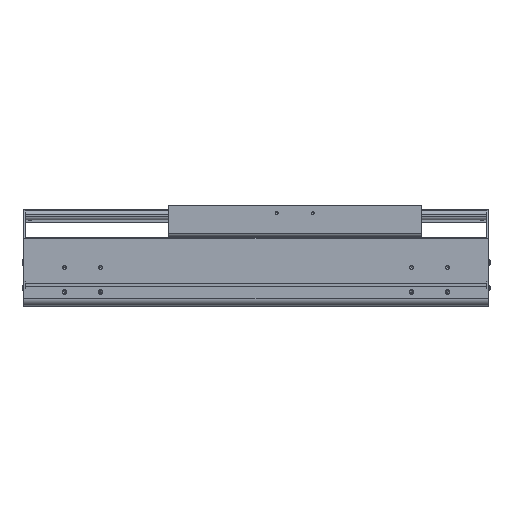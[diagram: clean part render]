
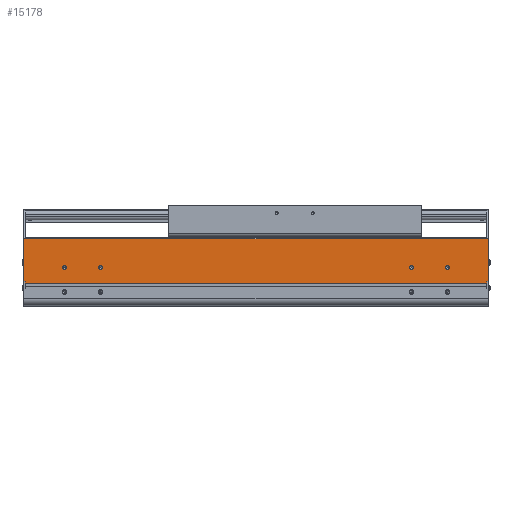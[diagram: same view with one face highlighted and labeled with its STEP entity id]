
A CAD part, top view. The second image highlights one B-rep face of the part: STEP entity #15178.
In plain terms, the highlighted planar face has unit normal (0, 0, 1).
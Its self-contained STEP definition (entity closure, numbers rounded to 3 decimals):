
#1622=DIRECTION('',(0.,-1.,0.));
#1623=VECTOR('',#1622,2.55);
#1624=CARTESIAN_POINT('',(0.,34.65,107.));
#1625=LINE('',#1624,#1623);
#2105=DIRECTION('',(1.,0.,0.));
#2106=VECTOR('',#2105,2.);
#2107=CARTESIAN_POINT('',(-641.,34.65,107.));
#2108=LINE('',#2107,#2106);
#2109=CARTESIAN_POINT('',(-54.5,54.,107.));
#2110=DIRECTION('',(0.,0.,-1.));
#2111=DIRECTION('',(1.,0.,0.));
#2112=AXIS2_PLACEMENT_3D('',#2109,#2110,#2111);
#2114=CARTESIAN_POINT('',(-54.5,54.,107.));
#2115=DIRECTION('',(0.,0.,-1.));
#2116=DIRECTION('',(-1.,0.,0.));
#2117=AXIS2_PLACEMENT_3D('',#2114,#2115,#2116);
#2119=CARTESIAN_POINT('',(-104.5,54.,107.));
#2120=DIRECTION('',(0.,0.,-1.));
#2121=DIRECTION('',(1.,0.,0.));
#2122=AXIS2_PLACEMENT_3D('',#2119,#2120,#2121);
#2124=CARTESIAN_POINT('',(-104.5,54.,107.));
#2125=DIRECTION('',(0.,0.,-1.));
#2126=DIRECTION('',(-1.,0.,0.));
#2127=AXIS2_PLACEMENT_3D('',#2124,#2125,#2126);
#2129=CARTESIAN_POINT('',(-584.5,54.,107.));
#2130=DIRECTION('',(0.,0.,-1.));
#2131=DIRECTION('',(1.,0.,0.));
#2132=AXIS2_PLACEMENT_3D('',#2129,#2130,#2131);
#2134=CARTESIAN_POINT('',(-584.5,54.,107.));
#2135=DIRECTION('',(0.,0.,-1.));
#2136=DIRECTION('',(-1.,0.,0.));
#2137=AXIS2_PLACEMENT_3D('',#2134,#2135,#2136);
#2139=CARTESIAN_POINT('',(-534.5,54.,107.));
#2140=DIRECTION('',(0.,0.,-1.));
#2141=DIRECTION('',(1.,0.,0.));
#2142=AXIS2_PLACEMENT_3D('',#2139,#2140,#2141);
#2144=CARTESIAN_POINT('',(-534.5,54.,107.));
#2145=DIRECTION('',(0.,0.,-1.));
#2146=DIRECTION('',(-1.,0.,0.));
#2147=AXIS2_PLACEMENT_3D('',#2144,#2145,#2146);
#2149=DIRECTION('',(0.,-1.,0.));
#2150=VECTOR('',#2149,2.55);
#2151=CARTESIAN_POINT('',(-639.,34.65,107.));
#2152=LINE('',#2151,#2150);
#2153=DIRECTION('',(0.,-1.,0.));
#2154=VECTOR('',#2153,58.85);
#2155=CARTESIAN_POINT('',(-641.,93.5,107.));
#2156=LINE('',#2155,#2154);
#2157=DIRECTION('',(0.,1.,0.));
#2158=VECTOR('',#2157,58.85);
#2159=CARTESIAN_POINT('',(2.,34.65,107.));
#2160=LINE('',#2159,#2158);
#2161=DIRECTION('',(1.,0.,0.));
#2162=VECTOR('',#2161,639.);
#2163=CARTESIAN_POINT('',(-639.,32.1,107.));
#2164=LINE('',#2163,#2162);
#2269=DIRECTION('',(-1.,0.,0.));
#2270=VECTOR('',#2269,643.);
#2271=CARTESIAN_POINT('',(2.,93.5,107.));
#2272=LINE('',#2271,#2270);
#8619=DIRECTION('',(1.,0.,0.));
#8620=VECTOR('',#8619,2.);
#8621=CARTESIAN_POINT('',(0.,34.65,107.));
#8622=LINE('',#8621,#8620);
#9869=CARTESIAN_POINT('',(-641.,34.65,107.));
#9870=VERTEX_POINT('',#9869);
#9871=CARTESIAN_POINT('',(-641.,93.5,107.));
#9872=VERTEX_POINT('',#9871);
#10101=CARTESIAN_POINT('',(-639.,32.1,107.));
#10102=VERTEX_POINT('',#10101);
#10443=CARTESIAN_POINT('',(0.,32.1,107.));
#10444=VERTEX_POINT('',#10443);
#10445=CARTESIAN_POINT('',(-52.,54.,107.));
#10446=CARTESIAN_POINT('',(-57.,54.,107.));
#10447=VERTEX_POINT('',#10445);
#10448=VERTEX_POINT('',#10446);
#10449=CARTESIAN_POINT('',(-102.,54.,107.));
#10450=CARTESIAN_POINT('',(-107.,54.,107.));
#10451=VERTEX_POINT('',#10449);
#10452=VERTEX_POINT('',#10450);
#10453=CARTESIAN_POINT('',(-582.,54.,107.));
#10454=CARTESIAN_POINT('',(-587.,54.,107.));
#10455=VERTEX_POINT('',#10453);
#10456=VERTEX_POINT('',#10454);
#10457=CARTESIAN_POINT('',(-532.,54.,107.));
#10458=CARTESIAN_POINT('',(-537.,54.,107.));
#10459=VERTEX_POINT('',#10457);
#10460=VERTEX_POINT('',#10458);
#11368=CARTESIAN_POINT('',(2.,34.65,107.));
#11369=VERTEX_POINT('',#11368);
#11370=CARTESIAN_POINT('',(2.,93.5,107.));
#11371=VERTEX_POINT('',#11370);
#11714=CARTESIAN_POINT('',(0.,34.65,107.));
#11715=VERTEX_POINT('',#11714);
#11902=CARTESIAN_POINT('',(-639.,34.65,107.));
#11903=VERTEX_POINT('',#11902);
#15136=CARTESIAN_POINT('',(-319.5,62.8,107.));
#15137=DIRECTION('',(0.,0.,1.));
#15138=DIRECTION('',(0.,-1.,0.));
#15139=AXIS2_PLACEMENT_3D('',#15136,#15137,#15138);
#15140=PLANE('',#15139);
#15141=ORIENTED_EDGE('',*,*,#13389,.F.);
#15142=ORIENTED_EDGE('',*,*,#15131,.F.);
#15143=ORIENTED_EDGE('',*,*,#14018,.F.);
#15145=ORIENTED_EDGE('',*,*,#15144,.F.);
#15146=ORIENTED_EDGE('',*,*,#13127,.F.);
#15148=ORIENTED_EDGE('',*,*,#15147,.F.);
#15149=ORIENTED_EDGE('',*,*,#14738,.T.);
#15151=ORIENTED_EDGE('',*,*,#15150,.F.);
#15152=EDGE_LOOP('',(#15141,#15142,#15143,#15145,#15146,#15148,#15149,#15151));
#15153=FACE_OUTER_BOUND('',#15152,.F.);
#15155=ORIENTED_EDGE('',*,*,#15154,.F.);
#15157=ORIENTED_EDGE('',*,*,#15156,.F.);
#15158=EDGE_LOOP('',(#15155,#15157));
#15159=FACE_BOUND('',#15158,.F.);
#15161=ORIENTED_EDGE('',*,*,#15160,.F.);
#15163=ORIENTED_EDGE('',*,*,#15162,.F.);
#15164=EDGE_LOOP('',(#15161,#15163));
#15165=FACE_BOUND('',#15164,.F.);
#15167=ORIENTED_EDGE('',*,*,#15166,.F.);
#15169=ORIENTED_EDGE('',*,*,#15168,.F.);
#15170=EDGE_LOOP('',(#15167,#15169));
#15171=FACE_BOUND('',#15170,.F.);
#15173=ORIENTED_EDGE('',*,*,#15172,.F.);
#15175=ORIENTED_EDGE('',*,*,#15174,.F.);
#15176=EDGE_LOOP('',(#15173,#15175));
#15177=FACE_BOUND('',#15176,.F.);
#15178=ADVANCED_FACE('',(#15153,#15159,#15165,#15171,#15177),#15140,.T.);
#2113=CIRCLE('',#2112,2.5);
#2118=CIRCLE('',#2117,2.5);
#2123=CIRCLE('',#2122,2.5);
#2128=CIRCLE('',#2127,2.5);
#2133=CIRCLE('',#2132,2.5);
#2138=CIRCLE('',#2137,2.5);
#2143=CIRCLE('',#2142,2.5);
#2148=CIRCLE('',#2147,2.5);
#13127=EDGE_CURVE('',#11369,#11371,#2160,.T.);
#13389=EDGE_CURVE('',#11903,#10102,#2152,.T.);
#14018=EDGE_CURVE('',#9872,#9870,#2156,.T.);
#14738=EDGE_CURVE('',#11715,#10444,#1625,.T.);
#15131=EDGE_CURVE('',#9870,#11903,#2108,.T.);
#15144=EDGE_CURVE('',#11371,#9872,#2272,.T.);
#15147=EDGE_CURVE('',#11715,#11369,#8622,.T.);
#15150=EDGE_CURVE('',#10102,#10444,#2164,.T.);
#15154=EDGE_CURVE('',#10451,#10452,#2123,.T.);
#15156=EDGE_CURVE('',#10452,#10451,#2128,.T.);
#15160=EDGE_CURVE('',#10455,#10456,#2133,.T.);
#15162=EDGE_CURVE('',#10456,#10455,#2138,.T.);
#15166=EDGE_CURVE('',#10459,#10460,#2143,.T.);
#15168=EDGE_CURVE('',#10460,#10459,#2148,.T.);
#15172=EDGE_CURVE('',#10447,#10448,#2113,.T.);
#15174=EDGE_CURVE('',#10448,#10447,#2118,.T.);
